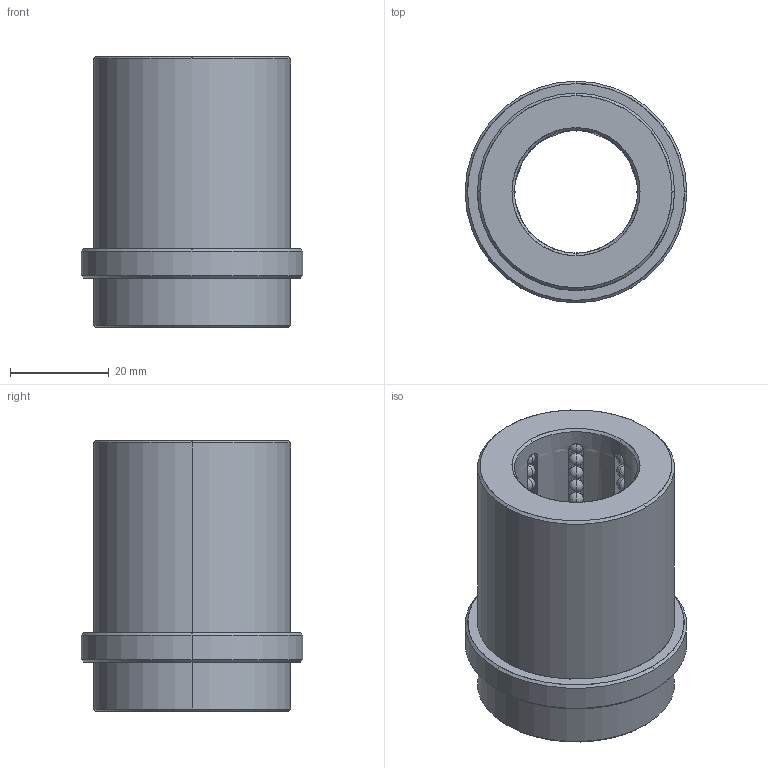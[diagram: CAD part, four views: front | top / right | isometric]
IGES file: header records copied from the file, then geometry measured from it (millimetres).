
Start section: START RECORD GO HERE.
Global section: file name: B8022545.igs; native system: DASSAULT SYSTEMES CATIA V5 R20 - www.3ds.com; preprocessor: CATIA Version 5 Release 20 ; author: Utente; organization: NB04-ASUS; date: 20200419.150048; units: millimetre
Bounding box: 45 x 45 x 55 mm (x, y, z)
Surface area: 19070.5 mm2 (no closed solid volume)
Topology: 0 solids, 0 shells, 556 faces, 2292 edges, 1332 vertices
Faces by surface type: revolution 528, plane 28
